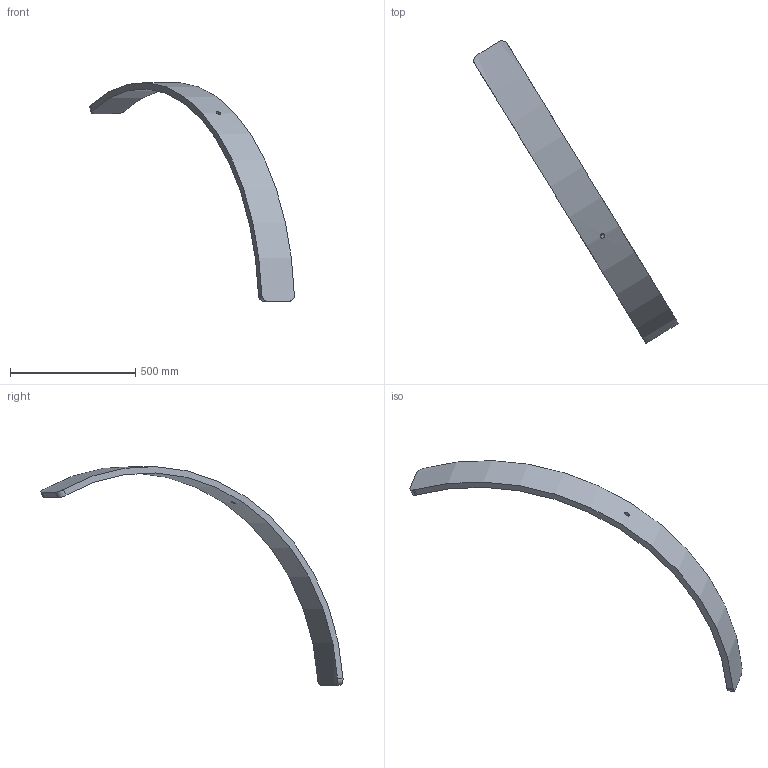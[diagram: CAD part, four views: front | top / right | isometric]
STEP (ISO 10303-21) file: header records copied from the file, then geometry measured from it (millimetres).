
FILE_DESCRIPTION (( 'STEP AP214' ), '1' );
FILE_NAME ('Section 10 AR.STEP', '2025-01-09T19:43:27', ( '' ), ( '' ), 'SwSTEP 2.0', 'SolidWorks 2024', '' );
FILE_SCHEMA (( 'AUTOMOTIVE_DESIGN' ));
Length unit declared in the file: inch
Products named in the file (1): Section 10 AR
Bounding box: 816.25 x 1204.84 x 872.68 mm (x, y, z)
Volume: 6964804.3 mm3; surface area: 648281.9 mm2
Topology: 1 solids, 1 shells, 11 faces, 27 edges, 18 vertices
Faces by surface type: cylinder 7, plane 4
Full cylindrical faces by diameter (mm): 19.447 x1
Entity records: 745 total; most frequent: CARTESIAN_POINT 470, ORIENTED_EDGE 52, DIRECTION 44, EDGE_CURVE 26, VERTEX_POINT 18, AXIS2_PLACEMENT_3D 16, EDGE_LOOP 14, FACE_OUTER_BOUND 12
